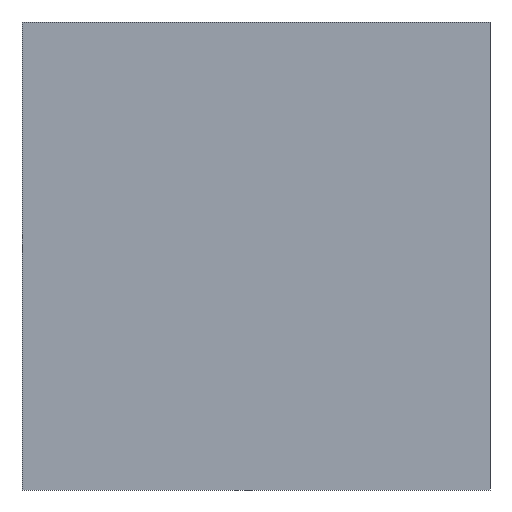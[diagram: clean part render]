
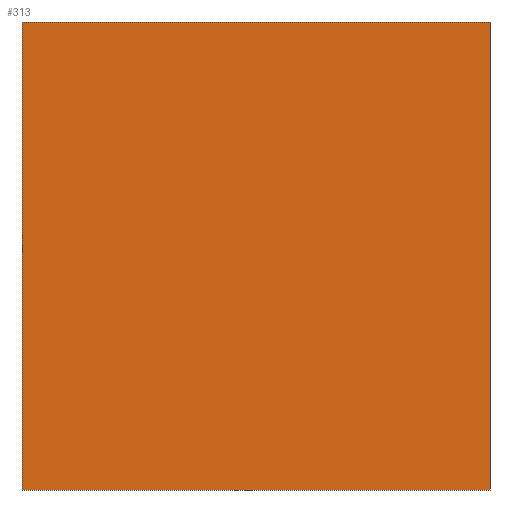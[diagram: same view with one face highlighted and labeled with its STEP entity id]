
A CAD part, front view. The second image highlights one B-rep face of the part: STEP entity #313.
In plain terms, the highlighted planar face has unit normal (0, -1, 0).
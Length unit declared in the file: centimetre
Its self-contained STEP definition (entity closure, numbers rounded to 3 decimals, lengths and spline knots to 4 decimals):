
#21 = VECTOR ( 'NONE', #242, 100. ) ;
#32 = LINE ( 'NONE', #165, #151 ) ;
#45 = PLANE ( 'NONE',  #403 ) ;
#46 = VERTEX_POINT ( 'NONE', #93 ) ;
#73 = CARTESIAN_POINT ( 'NONE',  ( 0., 0., 0. ) ) ;
#79 = CARTESIAN_POINT ( 'NONE',  ( 0., 0., 0. ) ) ;
#81 = FACE_OUTER_BOUND ( 'NONE', #148, .T. ) ;
#90 = LINE ( 'NONE', #438, #126 ) ;
#93 = CARTESIAN_POINT ( 'NONE',  ( 1000., 0., 0. ) ) ;
#101 = LINE ( 'NONE', #73, #21 ) ;
#126 = VECTOR ( 'NONE', #225, 100. ) ;
#135 = DIRECTION ( 'NONE',  ( 1., 0., 0. ) ) ;
#148 = EDGE_LOOP ( 'NONE', ( #359, #158, #425, #178 ) ) ;
#151 = VECTOR ( 'NONE', #135, 100. ) ;
#152 = CARTESIAN_POINT ( 'NONE',  ( 1000., 0., 1000. ) ) ;
#156 = EDGE_CURVE ( 'NONE', #263, #46, #101, .T. ) ;
#158 = ORIENTED_EDGE ( 'NONE', *, *, #379, .F. ) ;
#165 = CARTESIAN_POINT ( 'NONE',  ( 0., 0., 1000. ) ) ;
#178 = ORIENTED_EDGE ( 'NONE', *, *, #431, .T. ) ;
#203 = EDGE_CURVE ( 'NONE', #385, #437, #32, .T. ) ;
#217 = CARTESIAN_POINT ( 'NONE',  ( 0., 0., 1000. ) ) ;
#225 = DIRECTION ( 'NONE',  ( 0., 0., -1. ) ) ;
#242 = DIRECTION ( 'NONE',  ( 1., 0., 0. ) ) ;
#253 = DIRECTION ( 'NONE',  ( 0., 1., 0. ) ) ;
#263 = VERTEX_POINT ( 'NONE', #79 ) ;
#285 = LINE ( 'NONE', #152, #393 ) ;
#297 = DIRECTION ( 'NONE',  ( 0., 0., -1. ) ) ;
#313 = ADVANCED_FACE ( 'NONE', ( #81 ), #45, .F. ) ;
#327 = CARTESIAN_POINT ( 'NONE',  ( 1000., 0., 1000. ) ) ;
#359 = ORIENTED_EDGE ( 'NONE', *, *, #156, .T. ) ;
#365 = CARTESIAN_POINT ( 'NONE',  ( 0., 0., 1000. ) ) ;
#379 = EDGE_CURVE ( 'NONE', #437, #46, #285, .T. ) ;
#384 = DIRECTION ( 'NONE',  ( 0., 0., 1. ) ) ;
#385 = VERTEX_POINT ( 'NONE', #365 ) ;
#393 = VECTOR ( 'NONE', #297, 100. ) ;
#403 = AXIS2_PLACEMENT_3D ( 'NONE', #217, #253, #384 ) ;
#425 = ORIENTED_EDGE ( 'NONE', *, *, #203, .F. ) ;
#431 = EDGE_CURVE ( 'NONE', #385, #263, #90, .T. ) ;
#437 = VERTEX_POINT ( 'NONE', #327 ) ;
#438 = CARTESIAN_POINT ( 'NONE',  ( 0., 0., 1000. ) ) ;
